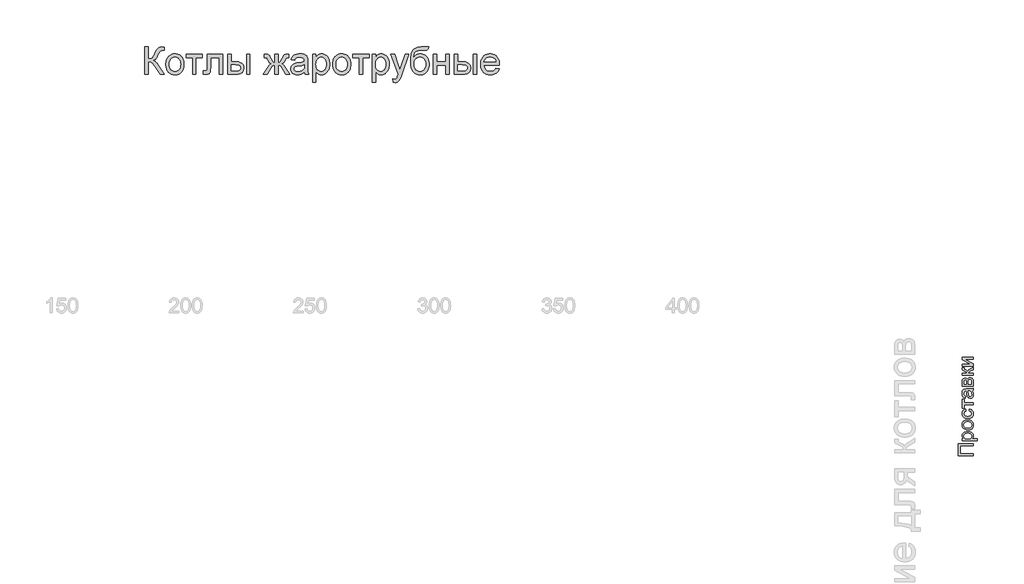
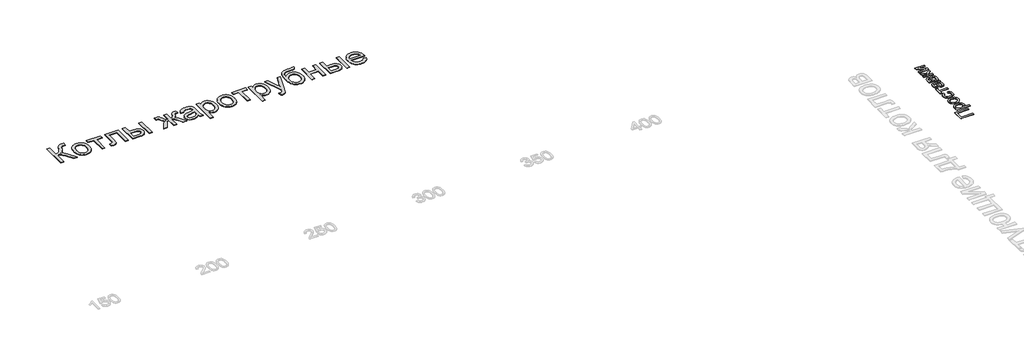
# One storey, part 8 of 8: 2 proxies.
"""IFC4 building model written with IfcOpenShell, lengths in millimetres."""

from ifc_helpers import new_model, si_unit, origin, origin_with_axes, place, context, project, spatial, polyline, outline, extrude, element, save

model = new_model("IFC4")

# Units and contexts
model_context = context("Model", 3, world=origin())
ifc_project = project(units=[si_unit("LENGTHUNIT", "METRE", prefix="MILLI")], contexts=[model_context])

# Site, building, storey
site = spatial("IfcSite", under=ifc_project)
building = spatial("IfcBuilding", under=site)
storey = spatial("IfcBuildingStorey", under=building, Name="Этаж 01", Elevation=0.0)

# Proxies
placement = place(None, origin())
element("IfcBuildingElementProxy", 1, Name="1100 мм Arial", ObjectType="1100 мм Arial", at=placement, inside=storey, context=model_context, shape_type="SweptSolid", body=[
    extrude(outline(polyline([(-8037.7373442, 7008.3016732), (-7899.7129979, 7008.3016732), (-7899.7129979, 6525.2164612), (-7848.9226669, 6527.4994566), (-7806.2702459, 6534.348443), (-7771.755735, 6545.7634204), (-7745.3791342, 6561.7443887), (-7721.9173541, 6586.9921283), (-7696.1473056, 6626.2074196), (-7668.0689885, 6679.3902625), (-7637.682403, 6746.5406571), (-7595.7292021, 6839.5790409), (-7561.5263916, 6900.8745208), (-7544.7619599, 6922.6851307), (-7524.79628, 6942.6929324), (-7501.6293517, 6960.8979258), (-7475.2611752, 6977.300111), (-7446.5763059, 6990.8632944), (-7416.4592992, 7000.5512826), (-7384.9101551, 7006.3640755), (-7351.9288736, 7008.3016732), (-7261.3503963, 7006.6842003), (-7261.3503963, 6868.6598541), (-7291.8128009, 6869.4685905), (-7322.2752055, 6870.2773269), (-7356.2084371, 6868.2049398), (-7385.4914344, 6861.9877787), (-7410.1241973, 6851.6258436), (-7430.106726, 6837.1191343), (-7448.6739659, 6815.7044683), (-7468.5217052, 6784.8882415), (-7512.0586816, 6695.051106), (-7539.9011172, 6632.7784029), (-7565.4689816, 6583.1759034), (-7588.7622749, 6546.2436077), (-7609.7809971, 6521.9815155), (-7653.4864602, 6489.7668488), (-7705.0771034, 6464.8308097), (-7678.3003465, 6455.5724627), (-7651.6162573, 6442.0850983), (-7625.0248359, 6424.3687164), (-7598.5260821, 6402.4233171), (-7545.8065778, 6345.8454662), (-7493.4577443, 6272.3515455), (-7261.3503963, 5904.1069029), (-7421.4802043, 5904.1069029), (-7617.7335717, 6215.2008396), (-7693.5189122, 6314.9786935), (-7726.382253, 6350.9421904), (-7755.8927074, 6377.6220674), (-7785.756984, 6396.9053761), (-7819.6817913, 6410.6791679), (-7857.6671293, 6418.9434431), (-7899.7129979, 6421.6982014), (-7899.7129979, 5904.1069029), (-8037.7373442, 5904.1069029), (-8037.7373442, 7008.3016732)])), origin_with_axes(), (0.0, 0.0, 1.0), 20.0),
    extrude(outline(polyline([(-7192.3382232, 6309.5534201), (-7190.4722324, 6363.8777607), (-7184.8742601, 6414.5712119), (-7175.5443063, 6461.6337736), (-7162.482371, 6505.0654458), (-7145.6884541, 6544.8662285), (-7125.1625556, 6581.0361217), (-7100.9046757, 6613.5751255), (-7072.9148142, 6642.4832397), (-7020.3132506, 6681.7575014), (-6962.2527163, 6709.8105454), (-6898.7332112, 6726.6423718), (-6829.7547354, 6732.2529806), (-6790.7690073, 6730.5449461), (-6753.6071484, 6725.4208428), (-6718.2691585, 6716.8806707), (-6684.7550376, 6704.9244296), (-6653.0647859, 6689.5521197), (-6623.1984032, 6670.7637409), (-6595.1558896, 6648.5592932), (-6568.9372451, 6622.9387766), (-6545.2122045, 6594.3065594), (-6524.6505026, 6563.0670097), (-6507.2521395, 6529.2201276), (-6493.0171152, 6492.7659129), (-6481.9454296, 6453.7043658), (-6474.0370827, 6412.0354863), (-6469.2920746, 6367.7592742), (-6467.7104052, 6320.8757297), (-6470.5072853, 6246.9942895), (-6478.8979255, 6181.4360947), (-6492.8823258, 6124.2011455), (-6512.4604862, 6075.2894417), (-6537.388101, 6033.0413889), (-6567.4208643, 5995.7973927), (-6602.5587762, 5963.5574529), (-6642.8018367, 5936.3215696), (-6686.5831189, 5914.6794465), (-6732.3356961, 5899.2207871), (-6780.0595682, 5889.9455915), (-6829.7547354, 5886.8538596), (-6869.3554401, 5888.5555758), (-6907.014335, 5893.6607243), (-6942.7314201, 5902.1693052), (-6976.5066954, 5914.0813185), (-7008.3401609, 5929.3967642), (-7038.2318166, 5948.1156422), (-7066.1816624, 5970.2379526), (-7092.1896985, 5995.7636953), (-7115.662009, 6024.4906863), (-7136.0046781, 6056.2167415), (-7153.2177057, 6090.9418609), (-7167.301092, 6128.6660444), (-7178.2548369, 6169.3892921), (-7186.0789404, 6213.1116039), (-7190.7734025, 6259.8329799), (-7192.3382232, 6309.5534201)]), holes=[polyline([(-7054.3138769, 6309.8229989), (-7050.3207409, 6242.8747884), (-7038.3413329, 6184.9069218), (-7018.375653, 6135.919399), (-6990.423701, 6095.91222), (-6956.4230747, 6064.8348388), (-6918.3113716, 6042.6367094), (-6876.0885919, 6029.3178317), (-6829.7547354, 6024.8782059), (-6783.6567604, 6029.3431048), (-6741.6024674, 6042.7378015), (-6703.5918564, 6065.0622959), (-6669.6249274, 6096.3165882), (-6641.6729754, 6136.7197111), (-6621.7072955, 6186.4906973), (-6609.7278875, 6245.6295468), (-6605.7347515, 6314.1362597), (-6609.7531605, 6378.9615371), (-6621.8083875, 6435.413023), (-6641.9004326, 6483.4907173), (-6670.0292956, 6523.1946201), (-6704.1225896, 6554.2720013), (-6742.1079276, 6576.4701308), (-6783.9853095, 6589.7890084), (-6829.7547354, 6594.2286343), (-6876.0885919, 6589.8058571), (-6918.3113716, 6576.5375255), (-6956.4230747, 6554.4236394), (-6990.423701, 6523.4641989), (-7018.375653, 6483.5749607), (-7038.3413329, 6434.6716813), (-7050.3207409, 6376.7543607), (-7054.3138769, 6309.8229989)])]), origin_with_axes(), (0.0, 0.0, 1.0), 20.0),
    extrude(outline(polyline([(-6381.4451888, 6714.9999373), (-5725.8295439, 6714.9999373), (-5725.8295439, 6576.975591), (-5984.6251932, 6576.975591), (-5984.6251932, 5904.1069029), (-6122.6495395, 5904.1069029), (-6122.6495395, 6576.975591), (-6381.4451888, 6576.975591), (-6381.4451888, 6714.9999373)])), origin_with_axes(), (0.0, 0.0, 1.0), 20.0),
    extrude(outline(polyline([(-5536.0460678, 6714.9999373), (-4914.9365095, 6714.9999373), (-4914.9365095, 5904.9156393), (-5052.9608558, 5904.9156393), (-5052.9608558, 6576.975591), (-5398.0217215, 6576.975591), (-5398.0217215, 6190.1300111), (-5400.3468386, 6077.8504403), (-5407.3221901, 6011.6688446), (-5414.0026898, 5990.7849118), (-5424.7437202, 5971.2657217), (-5439.5452812, 5953.1112743), (-5458.407373, 5936.3215696), (-5481.6248472, 5922.2276529), (-5509.4925558, 5912.1605696), (-5542.0104987, 5906.1203195), (-5579.178676, 5904.1069029), (-5691.3234573, 5911.1159517), (-5691.3234573, 6042.1312491), (-5629.5899118, 6042.1312491), (-5592.1521558, 6044.2541822), (-5567.1824193, 6050.6229814), (-5551.5805462, 6061.6083175), (-5542.2463802, 6077.5808615), (-5537.5961459, 6116.9056692), (-5536.0460678, 6197.9477963), (-5536.0460678, 6714.9999373)])), origin_with_axes(), (0.0, 0.0, 1.0), 20.0),
    extrude(outline(polyline([(-3948.7660855, 6714.9999373), (-3810.7417392, 6714.9999373), (-3810.7417392, 5904.1069029), (-3948.7660855, 5904.1069029), (-3948.7660855, 6714.9999373)])), origin_with_axes(), (0.0, 0.0, 1.0), 20.0),
    extrude(outline(polyline([(-4707.89999, 6714.9999373), (-4569.8756438, 6714.9999373), (-4569.8756438, 6421.6982014), (-4399.2322625, 6421.6982014), (-4320.7090123, 6417.3765163), (-4251.7389608, 6404.4114608), (-4192.3221081, 6382.803035), (-4142.4584542, 6352.5512389), (-4103.0072815, 6314.7006903), (-4087.5086065, 6293.3176156), (-4074.8278724, 6270.2960071), (-4064.9650793, 6245.6358651), (-4057.920227, 6219.3371893), (-4052.2843452, 6161.8242369), (-4057.0103985, 6110.511597), (-4071.1885586, 6063.0573036), (-4094.8188254, 6019.4613568), (-4127.901199, 5979.7237566), (-4148.218595, 5962.0010565), (-4171.3623563, 5946.6413831), (-4197.3324829, 5933.6447364), (-4226.1289747, 5923.0111163), (-4292.201054, 5908.8329562), (-4369.5785944, 5904.1069029), (-4707.89999, 5904.1069029), (-4707.89999, 6714.9999373)]), holes=[polyline([(-4569.8756438, 6042.1312491), (-4428.0771943, 6042.1312491), (-4368.5171278, 6043.9424817), (-4318.156438, 6049.3761794), (-4276.9951248, 6058.4323423), (-4245.0331881, 6071.1109703), (-4221.0912208, 6087.6310962), (-4203.9898156, 6108.2117528), (-4193.7289725, 6132.8529401), (-4190.3086915, 6161.5546581), (-4192.8444171, 6184.7552837), (-4200.4515939, 6206.6417127), (-4213.1302219, 6227.2139449), (-4230.8803011, 6246.4719806), (-4257.2905993, 6262.7478007), (-4295.9498842, 6274.3733865), (-4346.858156, 6281.348738), (-4410.0154146, 6283.6738551), (-4569.8756438, 6283.6738551), (-4569.8756438, 6042.1312491)])]), origin_with_axes(), (0.0, 0.0, 1.0), 20.0),
    extrude(outline(polyline([(-2672.0408823, 6714.9999373), (-2672.0408823, 6369.9390716), (-2645.5800381, 6371.7166068), (-2623.3482113, 6377.0492125), (-2605.345402, 6385.9368886), (-2591.5716101, 6398.3796351), (-2560.8733241, 6449.4985153), (-2515.4155987, 6545.9740289), (-2491.1366579, 6597.2782445), (-2467.902335, 6637.9677948), (-2445.7126299, 6668.0426798), (-2424.5675427, 6687.5028996), (-2401.2321277, 6699.5328536), (-2371.9322817, 6708.1256779), (-2336.6680048, 6713.2813724), (-2295.4392968, 6714.9999373), (-2240.7148002, 6714.9999373), (-2240.7148002, 6576.1668546), (-2278.7254112, 6576.975591), (-2324.2842286, 6573.4036719), (-2339.5828256, 6568.938773), (-2349.8942147, 6562.6879145), (-2370.3148089, 6532.7646676), (-2399.2271354, 6473.1877525), (-2429.0492903, 6413.2064692), (-2456.5126306, 6375.0610688), (-2490.1088888, 6348.9793198), (-2538.3297968, 6325.1889906), (-2515.5546003, 6317.3332958), (-2492.9226175, 6305.7624682), (-2448.0882931, 6271.4754144), (-2403.8268237, 6222.3278292), (-2360.1382092, 6158.3197125), (-2206.2087136, 5904.1069029), (-2364.45147, 5904.1069029), (-2515.9547563, 6154.8151881), (-2557.3687997, 6220.626113), (-2575.9781613, 6243.2454593), (-2593.1890829, 6259.0073948), (-2610.5010966, 6269.7989712), (-2629.4137344, 6277.5072401), (-2649.9269963, 6282.1322014), (-2672.0408823, 6283.6738551), (-2672.0408823, 5904.1069029), (-2810.0652286, 5904.1069029), (-2810.0652286, 6283.6738551), (-2831.9600819, 6282.1658987), (-2852.3554031, 6277.6420295), (-2871.2511922, 6270.1022474), (-2888.6474492, 6259.5465524), (-2905.9931602, 6243.986801), (-2924.7373112, 6221.4348494), (-2966.4209334, 6155.3543457), (-3117.9242197, 5904.1069029), (-3275.8973973, 5904.1069029), (-3122.5070594, 6158.3197125), (-3078.447774, 6222.3278292), (-3033.8830284, 6271.4754144), (-2988.8128226, 6305.7624682), (-2966.088172, 6317.3332958), (-2943.2371565, 6325.1889906), (-2995.9398121, 6351.6077131), (-3015.3157885, 6365.6258108), (-3030.0415305, 6380.183066), (-3061.0430926, 6430.3921178), (-3104.4452797, 6521.7119367), (-3122.0352965, 6552.1069466), (-3140.8384178, 6568.3490694), (-3165.7070623, 6575.4255129), (-3200.4153329, 6577.7843274), (-3241.3913107, 6576.975591), (-3241.3913107, 6714.9999373), (-3220.633743, 6714.9999373), (-3147.3757038, 6712.8433069), (-3099.5928612, 6706.3734157), (-3066.367274, 6692.8944756), (-3036.7810005, 6669.7106987), (-3021.9710151, 6651.4635836), (-3005.3076755, 6624.7584335), (-2966.4209334, 6545.9740289), (-2921.4349709, 6450.6779226), (-2891.0736584, 6399.3231609), (-2877.3672612, 6386.4676218), (-2859.2970572, 6377.2850939), (-2836.8630463, 6371.7755772), (-2810.0652286, 6369.9390716), (-2810.0652286, 6714.9999373), (-2672.0408823, 6714.9999373)])), origin_with_axes(), (0.0, 0.0, 1.0), 20.0),
    extrude(outline(polyline([(-1619.6052419, 6007.6251626), (-1652.3337932, 5976.9100279), (-1685.5509562, 5951.081009), (-1719.2567307, 5930.1381059), (-1753.4511167, 5914.0813185), (-1788.5216339, 5902.1693052), (-1824.8558017, 5893.6607243), (-1862.4536202, 5888.5555758), (-1901.3150893, 5886.8538596), (-1962.7706316, 5890.9480876), (-2016.6611189, 5903.2307718), (-2062.986551, 5923.701912), (-2101.7469281, 5952.3615083), (-2132.3525464, 5987.3899038), (-2154.2137023, 6026.9674416), (-2167.3303958, 6071.0941216), (-2171.702627, 6119.7699439), (-2170.0514569, 6149.0360926), (-2165.0979464, 6176.9880445), (-2156.8420956, 6203.6257998), (-2145.2839045, 6228.9493585), (-2114.7204079, 6273.4298607), (-2096.330079, 6292.030798), (-2075.8673631, 6308.2055261), (-2030.2074537, 6334.4894592), (-1979.2233629, 6353.4947647), (-1929.5534687, 6364.0757326), (-1859.7999539, 6374.2523324), (-1718.6754514, 6396.0882153), (-1664.1868361, 6408.4214455), (-1620.4139783, 6421.6982014), (-1619.6052419, 6452.4301848), (-1621.9809051, 6485.8916535), (-1629.1078946, 6514.0289409), (-1640.9862106, 6536.842047), (-1657.6158529, 6554.3309717), (-1686.3596926, 6571.7861991), (-1721.3712394, 6584.2542186), (-1762.6504933, 6591.7350304), (-1810.1974544, 6594.2286343), (-1854.4083778, 6592.5690398), (-1892.4189888, 6587.5902563), (-1924.2292874, 6579.2922838), (-1949.8392735, 6567.6751224), (-1970.8832687, 6551.8289434), (-1988.9955944, 6530.8439186), (-2004.1762507, 6504.7200479), (-2016.4252375, 6473.4573313), (-2154.4495837, 6490.7103746), (-2143.9444348, 6530.4732478), (-2130.4907678, 6566.192439), (-2114.0885826, 6597.8679481), (-2094.7378792, 6625.4997753), (-2071.6046484, 6649.6439266), (-2043.8548805, 6670.8564086), (-2011.4885757, 6689.137221), (-1974.5057338, 6704.486364), (-1933.6561211, 6716.6342588), (-1889.6895035, 6725.3113264), (-1842.605881, 6730.517567), (-1792.4052535, 6732.2529806), (-1743.3334874, 6730.7197511), (-1699.0972909, 6726.1200629), (-1659.6966642, 6718.4539157), (-1625.1316073, 6707.7213097), (-1595.1156926, 6694.6720108), (-1569.3624928, 6680.0557852), (-1547.8720077, 6663.8726328), (-1530.6442374, 6646.1225536), (-1516.6766858, 6626.367482), (-1504.9668566, 6604.1693526), (-1488.3203656, 6552.4439201), (-1483.2657631, 6504.7284722), (-1481.5808956, 6431.6726171), (-1481.5808956, 6259.9509206), (-1479.8286334, 6110.3683832), (-1474.5718468, 6020.1605768), (-1464.1930629, 5960.8869379), (-1447.074809, 5904.1069029), (-1585.0991553, 5904.1069029), (-1607.204617, 5952.0919295), (-1619.6052419, 6007.6251626)]), holes=[polyline([(-1619.6052419, 6283.6738551), (-1712.3403495, 6260.6922623), (-1842.2773318, 6241.3499833), (-1913.8842009, 6230.7690154), (-1961.0267938, 6218.9749428), (-1991.9272639, 6203.6763459), (-2014.8077646, 6182.5818046), (-2028.9606517, 6157.308792), (-2033.6782807, 6129.4747808), (-2031.1088578, 6108.0264174), (-2023.4005889, 6088.4314083), (-2010.5534742, 6070.6897534), (-1992.5675135, 6054.8014528), (-1969.6111937, 6041.7100323), (-1941.8530015, 6032.3590176), (-1909.2929369, 6026.7484088), (-1871.9309999, 6024.8782059), (-1833.7855995, 6026.9421686), (-1797.7968296, 6033.1340567), (-1763.96469, 6043.4538701), (-1732.2891808, 6057.901609), (-1703.7138279, 6075.2810174), (-1679.182157, 6094.3958393), (-1658.6941681, 6115.2460747), (-1642.2498612, 6137.8317236), (-1632.6966624, 6158.0501337), (-1625.872949, 6182.5818046), (-1620.4139783, 6244.584929), (-1619.6052419, 6283.6738551)])]), origin_with_axes(), (0.0, 0.0, 1.0), 20.0),
    extrude(outline(polyline([(-1291.7974194, 5593.5521237), (-1291.7974194, 6714.9999373), (-1153.7730732, 6714.9999373), (-1153.7730732, 6579.671379), (-1131.9371903, 6615.4326919), (-1108.7534133, 6646.4258297), (-1084.2217424, 6672.6507925), (-1058.3421775, 6694.1075802), (-1030.3733768, 6710.7961929), (-999.5739988, 6722.7166305), (-965.9440433, 6729.8688931), (-929.4835104, 6732.2529806), (-881.3468457, 6728.9169429), (-836.1418505, 6718.9088299), (-793.8685247, 6702.2286416), (-754.5268684, 6678.8763779), (-718.9761639, 6649.4585912), (-688.0756938, 6614.5818338), (-661.8254581, 6574.2461056), (-640.2254566, 6528.4514068), (-623.3599328, 6478.7646639), (-611.3131302, 6426.752804), (-604.0850486, 6372.4158268), (-601.675688, 6315.7537325), (-604.396749, 6255.1743212), (-612.5599321, 6197.7119149), (-626.1652372, 6143.3665134), (-645.2126644, 6092.1381168), (-669.4410592, 6045.3661948), (-698.5892671, 6004.390217), (-732.6572881, 5969.2101834), (-771.6451223, 5939.826094), (-813.6404449, 5916.6507415), (-856.7309314, 5900.0969182), (-900.9165818, 5890.1646242), (-946.1973961, 5886.8538596), (-978.7743094, 5889.0694603), (-1009.6495065, 5895.7162627), (-1038.8229874, 5906.7942665), (-1066.2947521, 5922.303472), (-1091.7278272, 5941.1992611), (-1114.785239, 5962.437016), (-1135.4669877, 5986.0167368), (-1153.7730732, 6011.9384234), (-1153.7730732, 5593.5521237), (-1291.7974194, 5593.5521237)]), holes=[polyline([(-1153.7730732, 6303.0835288), (-1150.0410916, 6236.5649596), (-1138.845147, 6179.346859), (-1120.1852394, 6131.4292271), (-1094.0613687, 6092.8120638), (-1062.6133166, 6063.091001), (-1027.980865, 6041.8616703), (-990.1640138, 6029.124072), (-949.1627629, 6024.8782059), (-907.5718085, 6029.2757101), (-869.0641616, 6042.4682226), (-833.6398222, 6064.4557436), (-801.2987904, 6095.238273), (-774.3493346, 6135.2538763), (-755.0997233, 6184.9406192), (-743.5499566, 6244.2985015), (-739.7000343, 6313.3275233), (-743.4572888, 6379.2732376), (-754.7290525, 6436.3902461), (-773.5153252, 6484.6785489), (-799.816107, 6524.1381459), (-831.3399781, 6554.8027346), (-865.7955186, 6576.7060122), (-903.1827286, 6589.8479788), (-943.5016081, 6594.2286343), (-983.6941225, 6589.5699756), (-1021.5109738, 6575.5939997), (-1056.9521618, 6552.3007063), (-1090.0176866, 6519.6900957), (-1117.9106682, 6478.2002333), (-1137.8342265, 6428.2691847), (-1149.7883615, 6369.8969499), (-1153.7730732, 6303.0835288)])]), origin_with_axes(), (0.0, 0.0, 1.0), 20.0),
    extrude(outline(polyline([(-480.904385, 6309.5534201), (-479.0383942, 6363.8777607), (-473.440422, 6414.5712119), (-464.1104681, 6461.6337736), (-451.0485328, 6505.0654458), (-434.2546159, 6544.8662285), (-413.7287175, 6581.0361217), (-389.4708375, 6613.5751255), (-361.480976, 6642.4832397), (-308.8794124, 6681.7575014), (-250.8188781, 6709.8105454), (-187.299373, 6726.6423718), (-118.3208972, 6732.2529806), (-79.3351691, 6730.5449461), (-42.1733102, 6725.4208428), (-6.8353203, 6716.8806707), (26.6788006, 6704.9244296), (58.3690523, 6689.5521197), (88.235435, 6670.7637409), (116.2779486, 6648.5592932), (142.4965931, 6622.9387766), (166.2216337, 6594.3065594), (186.7833355, 6563.0670097), (204.1816987, 6529.2201276), (218.416723, 6492.7659129), (229.4884086, 6453.7043658), (237.3967555, 6412.0354863), (242.1417636, 6367.7592742), (243.723433, 6320.8757297), (240.9265529, 6246.9942895), (232.5359127, 6181.4360947), (218.5515124, 6124.2011455), (198.973352, 6075.2894417), (174.0457372, 6033.0413889), (144.0129738, 5995.7973927), (108.875062, 5963.5574529), (68.6320015, 5936.3215696), (24.8507193, 5914.6794465), (-20.9018579, 5899.2207871), (-68.62573, 5889.9455915), (-118.3208972, 5886.8538596), (-157.9216019, 5888.5555758), (-195.5804968, 5893.6607243), (-231.2975819, 5902.1693052), (-265.0728572, 5914.0813185), (-296.9063227, 5929.3967642), (-326.7979784, 5948.1156422), (-354.7478242, 5970.2379526), (-380.7558603, 5995.7636953), (-404.2281708, 6024.4906863), (-424.5708399, 6056.2167415), (-441.7838676, 6090.9418609), (-455.8672538, 6128.6660444), (-466.8209987, 6169.3892921), (-474.6451022, 6213.1116039), (-479.3395643, 6259.8329799), (-480.904385, 6309.5534201)]), holes=[polyline([(-342.8800387, 6309.8229989), (-338.8869027, 6242.8747884), (-326.9074947, 6184.9069218), (-306.9418148, 6135.919399), (-278.9898628, 6095.91222), (-244.9892365, 6064.8348388), (-206.8775334, 6042.6367094), (-164.6547537, 6029.3178317), (-118.3208972, 6024.8782059), (-72.2229222, 6029.3431048), (-30.1686292, 6042.7378015), (7.8419818, 6065.0622959), (41.8089108, 6096.3165882), (69.7608628, 6136.7197111), (89.7265427, 6186.4906973), (101.7059507, 6245.6295468), (105.6990867, 6314.1362597), (101.6806777, 6378.9615371), (89.6254507, 6435.413023), (69.5334056, 6483.4907173), (41.4045426, 6523.1946201), (7.3112486, 6554.2720013), (-30.6740894, 6576.4701308), (-72.5514713, 6589.7890084), (-118.3208972, 6594.2286343), (-164.6547537, 6589.8058571), (-206.8775334, 6576.5375255), (-244.9892365, 6554.4236394), (-278.9898628, 6523.4641989), (-306.9418148, 6483.5749607), (-326.9074947, 6434.6716813), (-338.8869027, 6376.7543607), (-342.8800387, 6309.8229989)])]), origin_with_axes(), (0.0, 0.0, 1.0), 20.0),
    extrude(outline(polyline([(329.9886494, 6714.9999373), (985.6042943, 6714.9999373), (985.6042943, 6576.975591), (726.808645, 6576.975591), (726.808645, 5904.1069029), (588.7842987, 5904.1069029), (588.7842987, 6576.975591), (329.9886494, 6576.975591), (329.9886494, 6714.9999373)])), origin_with_axes(), (0.0, 0.0, 1.0), 20.0),
    extrude(outline(polyline([(1106.3755973, 5593.5521237), (1106.3755973, 6714.9999373), (1244.3999436, 6714.9999373), (1244.3999436, 6579.671379), (1266.2358265, 6615.4326919), (1289.4196034, 6646.4258297), (1313.9512743, 6672.6507925), (1339.8308392, 6694.1075802), (1367.7996399, 6710.7961929), (1398.5990179, 6722.7166305), (1432.2289734, 6729.8688931), (1468.6895063, 6732.2529806), (1516.826171, 6728.9169429), (1562.0311663, 6718.9088299), (1604.304492, 6702.2286416), (1643.6461484, 6678.8763779), (1679.1968528, 6649.4585912), (1710.0973229, 6614.5818338), (1736.3475587, 6574.2461056), (1757.9475601, 6528.4514068), (1774.8130839, 6478.7646639), (1786.8598866, 6426.752804), (1794.0879682, 6372.4158268), (1796.4973287, 6315.7537325), (1793.7762677, 6255.1743212), (1785.6130846, 6197.7119149), (1772.0077795, 6143.3665134), (1752.9603523, 6092.1381168), (1728.7319575, 6045.3661948), (1699.5837496, 6004.390217), (1665.5157286, 5969.2101834), (1626.5278945, 5939.826094), (1584.5325718, 5916.6507415), (1541.4420853, 5900.0969182), (1497.2564349, 5890.1646242), (1451.9756206, 5886.8538596), (1419.3987073, 5889.0694603), (1388.5235102, 5895.7162627), (1359.3500293, 5906.7942665), (1331.8782646, 5922.303472), (1306.4451896, 5941.1992611), (1283.3877777, 5962.437016), (1262.706029, 5986.0167368), (1244.3999436, 6011.9384234), (1244.3999436, 5593.5521237), (1106.3755973, 5593.5521237)]), holes=[polyline([(1244.3999436, 6303.0835288), (1248.1319251, 6236.5649596), (1259.3278697, 6179.346859), (1277.9877774, 6131.4292271), (1304.1116481, 6092.8120638), (1335.5597001, 6063.091001), (1370.1921517, 6041.8616703), (1408.009003, 6029.124072), (1449.0102538, 6024.8782059), (1490.6012082, 6029.2757101), (1529.1088551, 6042.4682226), (1564.5331945, 6064.4557436), (1596.8742263, 6095.238273), (1623.8236821, 6135.2538763), (1643.0732934, 6184.9406192), (1654.6230602, 6244.2985015), (1658.4729824, 6313.3275233), (1654.7157279, 6379.2732376), (1643.4439643, 6436.3902461), (1624.6576915, 6484.6785489), (1598.3569097, 6524.1381459), (1566.8330387, 6554.8027346), (1532.3774981, 6576.7060122), (1494.9902881, 6589.8479788), (1454.6714086, 6594.2286343), (1414.4788942, 6589.5699756), (1376.662043, 6575.5939997), (1341.2208549, 6552.3007063), (1308.1553301, 6519.6900957), (1280.2623485, 6478.2002333), (1260.3387902, 6428.2691847), (1248.3846552, 6369.8969499), (1244.3999436, 6303.0835288)])]), origin_with_axes(), (0.0, 0.0, 1.0), 20.0),
    extrude(outline(polyline([(1951.7747183, 5593.5521237), (1934.521675, 5726.4544728), (1972.1279178, 5717.3561882), (2004.6121634, 5714.3234267), (2041.4770644, 5718.1312273), (2070.1198121, 5729.554629), (2092.4274579, 5747.7848954), (2110.2870535, 5772.0132902), (2125.5182558, 5807.6650867), (2148.0280857, 5873.6444983), (2158.8112377, 5907.0722697), (1865.5095019, 6714.9999373), (2011.0820546, 6714.9999373), (2166.629023, 6264.8033391), (2195.2717706, 6176.9206498), (2220.814362, 6084.7246998), (2274.9997011, 6243.7761926), (2434.8599303, 6714.9999373), (2579.3541678, 6714.9999373), (2297.1051628, 5884.6972292), (2255.1856592, 5774.30471), (2223.7797288, 5704.6185899), (2205.6337058, 5673.6675737), (2186.2408808, 5647.1309105), (2165.6012538, 5625.0086001), (2143.7148248, 5607.3006426), (2120.1098311, 5593.7374591), (2094.3145095, 5584.049471), (2066.3288602, 5578.2366781), (2036.1528831, 5576.2990804), (1996.1878258, 5580.6123413), (1951.7747183, 5593.5521237)])), origin_with_axes(), (0.0, 0.0, 1.0), 20.0),
    extrude(outline(polyline([(3263.006008, 7025.5547164), (3383.777311, 7025.5547164), (3378.4194323, 6989.8102523), (3370.7027392, 6959.9459757), (3360.6272315, 6935.9618867), (3348.1929092, 6917.8579853), (3333.5851079, 6904.0504961), (3316.989163, 6892.9556435), (3298.4050744, 6884.5734277), (3277.8328421, 6878.9038485), (3214.0100609, 6872.4339573), (3108.8069336, 6870.2773269), (3032.0022483, 6868.2891832), (2968.4574702, 6862.3247522), (2918.1725994, 6852.3840339), (2881.1476359, 6838.4670283), (2852.8924078, 6820.1693672), (2828.9167432, 6797.0866823), (2809.220642, 6769.2189737), (2793.8041043, 6736.5662414), (2782.0016074, 6699.0105446), (2773.1476286, 6656.4339427), (2767.242168, 6608.8364356), (2764.2852255, 6556.2180233), (2790.9651025, 6597.5309746), (2819.7847613, 6633.3175605), (2850.7442017, 6663.5777809), (2883.8434239, 6688.311636), (2919.0992765, 6707.5359742), (2956.5286082, 6721.2676444), (2996.131419, 6729.5066465), (3037.9077089, 6732.2529806), (3076.3521733, 6730.5070366), (3113.1033458, 6725.2692048), (3148.1612265, 6716.539485), (3181.5258153, 6704.3178773), (3213.1971123, 6688.6043817), (3243.1751174, 6669.3989982), (3271.4598307, 6646.7017268), (3298.0512522, 6620.5125674), (3322.1869792, 6591.3454048), (3343.1046094, 6559.7141234), (3360.8041425, 6525.6187233), (3375.2855788, 6489.0592044), (3386.5489181, 6450.0355668), (3394.5941604, 6408.5478105), (3399.4213058, 6364.5959355), (3401.0303543, 6318.1799417), (3397.8375304, 6249.0498279), (3388.2590586, 6186.4233026), (3372.2949389, 6130.3003659), (3349.9451714, 6080.6810177), (3323.2147484, 6036.9502816), (3294.1086622, 5998.4931807), (3262.6269128, 5965.3097151), (3228.7695002, 5937.3998848), (3190.5567052, 5915.2859988), (3146.0088082, 5899.4903659), (3095.1258095, 5890.0129862), (3037.9077089, 5886.8538596), (2971.7176888, 5890.9228146), (2913.3286053, 5903.1296797), (2862.7404584, 5923.4744549), (2819.953248, 5951.9571401), (2783.3326527, 5986.7833515), (2751.244351, 6026.1587052), (2723.6883429, 6070.0832011), (2700.6646284, 6118.5568393), (2682.5017567, 6178.7150337), (2669.5282769, 6257.6931982), (2661.744189, 6355.4913327), (2659.149493, 6472.1094373), (2660.7859206, 6548.0021881), (2665.6952033, 6617.4376842), (2673.8773411, 6680.4159256), (2685.3323341, 6736.9369123), (2700.0601822, 6787.0006442), (2718.0608854, 6830.6071214), (2739.3344438, 6867.7563439), (2763.8808573, 6898.4483116), (2791.8222789, 6924.1951932), (2823.2808613, 6946.5091573), (2858.2566047, 6965.3902038), (2896.749509, 6980.8383328), (2938.7595743, 6992.8535442), (2984.2868004, 7001.4358381), (3033.3311875, 7006.5852144), (3085.8927355, 7008.3016732), (3239.5526523, 7011.4018294), (3254.5816705, 7016.4901292), (3263.006008, 7025.5547164)]), holes=[polyline([(3263.006008, 6322.4932025), (3259.2656021, 6379.5006947), (3248.0443845, 6431.0997621), (3229.3423552, 6477.2904049), (3203.1595141, 6518.0726229), (3170.1698083, 6551.3908779), (3131.0471848, 6575.1896315), (3085.7916435, 6589.4688836), (3034.4031845, 6594.2286343), (2980.7738517, 6589.1993048), (2933.6481075, 6574.1113162), (2893.0259518, 6548.9646687), (2858.9073848, 6513.7593621), (2831.8989586, 6470.1465666), (2812.6072257, 6419.7774525), (2801.0321859, 6362.6520196), (2797.1738393, 6298.770268), (2801.4365541, 6236.2195618), (2814.2246985, 6181.4697921), (2835.5382725, 6134.520959), (2865.377276, 6095.3730624), (2901.4671381, 6064.5315627), (2941.5332874, 6042.50192), (2985.5757241, 6029.2841344), (3033.5944481, 6024.8782059), (3082.2702704, 6029.9749301), (3126.1273716, 6045.2651027), (3165.1657518, 6070.7487238), (3199.3854109, 6106.4257933), (3227.2194221, 6150.5103516), (3247.1008587, 6201.2164393), (3259.0297207, 6258.5440563), (3263.006008, 6322.4932025)])]), origin_with_axes(), (0.0, 0.0, 1.0), 20.0),
    extrude(outline(polyline([(3573.5607872, 6714.9999373), (3711.5851334, 6714.9999373), (3711.5851334, 6404.4451582), (4073.8990424, 6404.4451582), (4073.8990424, 6714.9999373), (4211.9233887, 6714.9999373), (4211.9233887, 5904.1069029), (4073.8990424, 5904.1069029), (4073.8990424, 6266.4208119), (3711.5851334, 6266.4208119), (3711.5851334, 5904.1069029), (3573.5607872, 5904.1069029), (3573.5607872, 6714.9999373)])), origin_with_axes(), (0.0, 0.0, 1.0), 20.0),
    extrude(outline(polyline([(5178.0938127, 6714.9999373), (5316.118159, 6714.9999373), (5316.118159, 5904.1069029), (5178.0938127, 5904.1069029), (5178.0938127, 6714.9999373)])), origin_with_axes(), (0.0, 0.0, 1.0), 20.0),
    extrude(outline(polyline([(4418.9599082, 6714.9999373), (4556.9842545, 6714.9999373), (4556.9842545, 6421.6982014), (4727.6276357, 6421.6982014), (4806.1508859, 6417.3765163), (4875.1209374, 6404.4114608), (4934.5377901, 6382.803035), (4984.401444, 6352.5512389), (5023.8526167, 6314.7006903), (5039.3512917, 6293.3176156), (5052.0320258, 6270.2960071), (5061.8948189, 6245.6358651), (5068.9396712, 6219.3371893), (5074.575553, 6161.8242369), (5069.8494997, 6110.511597), (5055.6713396, 6063.0573036), (5032.0410728, 6019.4613568), (4998.9586993, 5979.7237566), (4978.6413032, 5962.0010565), (4955.4975419, 5946.6413831), (4929.5274153, 5933.6447364), (4900.7309235, 5923.0111163), (4834.6588442, 5908.8329562), (4757.2813038, 5904.1069029), (4418.9599082, 5904.1069029), (4418.9599082, 6714.9999373)]), holes=[polyline([(4556.9842545, 6042.1312491), (4698.782704, 6042.1312491), (4758.3427704, 6043.9424817), (4808.7034602, 6049.3761794), (4849.8647734, 6058.4323423), (4881.8267101, 6071.1109703), (4905.7686774, 6087.6310962), (4922.8700826, 6108.2117528), (4933.1309257, 6132.8529401), (4936.5512067, 6161.5546581), (4934.0154811, 6184.7552837), (4926.4083043, 6206.6417127), (4913.7296763, 6227.2139449), (4895.9795971, 6246.4719806), (4869.5692989, 6262.7478007), (4830.910014, 6274.3733865), (4780.0017422, 6281.348738), (4716.8444836, 6283.6738551), (4556.9842545, 6283.6738551), (4556.9842545, 6042.1312491)])]), origin_with_axes(), (0.0, 0.0, 1.0), 20.0),
    extrude(outline(polyline([(6090.8876341, 6145.6495089), (6226.2161924, 6128.3964656), (6205.467049, 6074.1942778), (6177.4561267, 6026.428284), (6142.1834254, 5985.098484), (6099.6489451, 5950.2048779), (6050.2907515, 5922.4888074), (5994.54691, 5902.6916142), (5932.4174206, 5890.8132982), (5863.9022834, 5886.8538596), (5819.9146049, 5888.561894), (5778.2604679, 5893.6859973), (5738.9398724, 5902.2261695), (5701.9528184, 5914.1824106), (5667.299306, 5929.5547205), (5634.979335, 5948.3430993), (5604.9929055, 5970.547547), (5577.3400175, 5996.1680635), (5552.5092826, 6024.8718876), (5530.9893124, 6056.3262579), (5512.7801068, 6090.5311744), (5497.8816658, 6127.4866371), (5486.2939895, 6167.192646), (5478.0170779, 6209.6492012), (5473.0509309, 6254.8563025), (5471.3955486, 6302.81395), (5473.0677796, 6352.403813), (5478.0844726, 6399.1378255), (5486.4456276, 6443.0159876), (5498.1512446, 6484.0382992), (5513.2013237, 6522.2047605), (5531.5958647, 6557.5153713), (5553.3348677, 6589.9701317), (5578.4183327, 6619.5690416), (5606.1681006, 6645.9793398), (5635.9060121, 6668.8682649), (5667.6320673, 6688.2358169), (5701.3462661, 6704.0819958), (5737.0486086, 6716.4068017), (5774.7390948, 6725.2102344), (5814.4177246, 6730.492294), (5856.0844981, 6732.2529806), (5896.388635, 6730.4965062), (5934.8099324, 6725.2270831), (5971.3483904, 6716.4447112), (6006.004009, 6704.1493905), (6038.7767881, 6688.3411211), (6069.6667278, 6669.019903), (6098.6738281, 6646.1857361), (6125.7980889, 6619.8386204), (6150.3445024, 6590.3071052), (6171.6180607, 6557.9197395), (6189.618764, 6522.6765234), (6204.3466121, 6484.5774568), (6215.8016051, 6443.6225399), (6223.9837429, 6399.8117725), (6228.8930256, 6353.1451547), (6230.5294532, 6303.6226864), (6229.7207168, 6266.4208119), (5609.4198949, 6266.4208119), (5617.4145912, 6211.342493), (5633.3113162, 6163.1047362), (5657.1100697, 6121.7075416), (5688.8108519, 6087.150909), (5726.6614005, 6059.9066014), (5768.9094532, 6040.4463816), (5815.5550102, 6028.7702498), (5866.5980714, 6024.8782059), (5904.7771691, 6026.6810141), (5940.0582947, 6032.0894388), (5972.4414482, 6041.10348), (6001.9266296, 6053.7231376), (6028.5138389, 6070.2853852), (6052.2030761, 6091.1271963), (6072.9943411, 6116.2485708), (6090.8876341, 6145.6495089)]), holes=[polyline([(5609.4198949, 6404.4451582), (6092.5051069, 6404.4451582), (6085.4118147, 6443.500387), (6073.8367749, 6477.3662239), (6057.7799875, 6506.0426689), (6037.2414526, 6529.529722), (5999.6015125, 6557.8354961), (5956.7721804, 6578.0539062), (5908.7534564, 6590.1849523), (5855.5453405, 6594.2286343), (5807.0127319, 6591.002113), (5762.5069567, 6581.3225492), (5722.0280148, 6565.1899428), (5685.5759063, 6542.6042938), (5654.9871367, 6514.6102202), (5632.0982116, 6482.2523397), (5616.909131, 6445.5306523), (5609.4198949, 6404.4451582)])]), origin_with_axes(), (0.0, 0.0, 1.0), 20.0),
])
element("IfcBuildingElementProxy", 2, Name="600 мм Arial", ObjectType="600 мм Arial", at=placement, inside=storey, context=model_context, shape_type="SweptSolid", body=[
    extrude(outline(polyline([(24700.5255854, -9439.7865523), (24700.5255854, -8968.8975985), (25303.2634463, -8968.8975985), (25303.2634463, -9044.2398311), (24775.867818, -9044.2398311), (24775.867818, -9364.4443197), (25303.2634463, -9364.4443197), (25303.2634463, -9439.7865523), (24700.5255854, -9439.7865523)])), origin_with_axes(), (0.0, 0.0, 1.0), 20.0),
    extrude(outline(polyline([(25472.7834696, -8846.4664705), (24860.6278297, -8846.4664705), (24860.6278297, -8771.1242379), (24934.4985343, -8771.1242379), (24898.0598227, -8746.5497206), (24872.0321715, -8719.0321474), (24856.4155808, -8686.9528374), (24851.2100506, -8648.6931099), (24853.0310665, -8622.4171384), (24858.4941141, -8597.7414536), (24867.5991935, -8574.6660554), (24880.3463046, -8553.190944), (24896.4043537, -8533.7851687), (24915.442247, -8516.9177792), (24937.4599844, -8502.5887755), (24962.4575659, -8490.7981576), (25017.970959, -8475.01602), (25078.5611236, -8469.7553075), (25142.9956551, -8475.6966017), (25172.6607395, -8483.1232195), (25200.6243696, -8493.5204843), (25226.1553801, -8506.7458421), (25248.5226054, -8522.6567384), (25267.7260455, -8541.2531732), (25283.7657005, -8562.5351466), (25296.4162426, -8585.4587935), (25305.4523441, -8608.9802485), (25310.874005, -8633.0995118), (25312.6812253, -8657.8165834), (25307.8435771, -8692.4526732), (25293.3306324, -8723.3731549), (25271.4232596, -8749.8422645), (25244.402327, -8771.1242379), (25472.7834696, -8771.1242379), (25472.7834696, -8846.4664705)]), holes=[polyline([(25085.4773051, -8771.1242379), (25121.787258, -8769.0870914), (25153.0204394, -8762.9756517), (25179.1768493, -8752.789919), (25200.2564876, -8738.5298931), (25216.4800836, -8721.3635995), (25228.0683665, -8702.4590635), (25235.0213362, -8681.816285), (25237.3389927, -8659.4352642), (25234.9385627, -8636.7323465), (25227.7372727, -8615.712489), (25215.7351226, -8596.3756917), (25198.9321124, -8578.7219544), (25177.089119, -8564.0112731), (25149.9670189, -8553.5036437), (25117.5658122, -8547.199066), (25079.8854988, -8545.0975401), (25043.8882456, -8547.1484822), (25012.7102465, -8553.3013086), (24986.3515015, -8563.5560192), (24964.8120107, -8577.912614), (24948.0733799, -8595.1202944), (24936.1172151, -8613.9282614), (24928.9435162, -8634.336515), (24926.5522832, -8656.3450554), (24929.0952675, -8678.2846179), (24936.7242204, -8698.9273963), (24949.4391418, -8718.2733908), (24967.2400319, -8736.3226012), (24989.8877672, -8751.5483172), (25017.1432245, -8762.4238287), (25049.0064038, -8768.9491356), (25085.4773051, -8771.1242379)])]), origin_with_axes(), (0.0, 0.0, 1.0), 20.0),
    extrude(outline(polyline([(25081.945638, -8403.8308539), (25024.6204261, -8399.7565608), (24975.2230712, -8387.5336815), (24933.7535733, -8367.162216), (24900.2119324, -8338.6421644), (24878.7736091, -8309.9289746), (24863.460521, -8278.2359408), (24854.2726682, -8243.5630627), (24851.2100506, -8205.9103405), (24854.9394543, -8164.3442736), (24866.1276655, -8126.7605292), (24884.7746841, -8093.1591075), (24910.8805102, -8063.5400084), (24943.562227, -8039.3655628), (24981.9369176, -8022.0981016), (25026.0045821, -8011.7376249), (25075.7652205, -8008.2841327), (25116.0942842, -8009.810843), (25151.8800053, -8014.3909738), (25183.1223837, -8022.0245252), (25209.8214195, -8032.7114972), (25232.8830221, -8046.3185325), (25253.2131008, -8062.7122739), (25270.8116558, -8081.8927214), (25285.6786869, -8103.8598751), (25297.4922975, -8127.7584092), (25305.9305907, -8152.7329981), (25310.9935667, -8178.7836419), (25312.6812253, -8205.9103405), (25308.9656172, -8248.0834127), (25297.8187927, -8286.016645), (25279.240752, -8319.7100372), (25253.2314949, -8349.1635894), (25220.23248, -8373.0805176), (25180.6851655, -8390.1640378), (25134.5895515, -8400.4141499), (25081.945638, -8403.8308539)]), holes=[polyline([(25081.7984852, -8328.4886213), (25118.3429629, -8326.3089205), (25149.985413, -8319.769818), (25176.7258355, -8308.8713139), (25198.5642304, -8293.6134082), (25215.5281889, -8275.0537615), (25227.6453022, -8254.2500347), (25234.9155701, -8231.2022277), (25237.3389927, -8205.9103405), (25234.9017745, -8180.747212), (25227.5901199, -8157.7913755), (25215.4040288, -8137.042831), (25198.3435012, -8118.5015785), (25176.2889756, -8103.2436727), (25149.1208903, -8092.3451686), (25116.8392452, -8085.8060661), (25079.4440404, -8083.6263653), (25044.058391, -8085.8198617), (25013.2436754, -8092.4003509), (24986.9998935, -8103.3678329), (24965.3270455, -8118.7223077), (24948.363087, -8137.3325381), (24936.2459738, -8158.067287), (24928.9757059, -8180.9265545), (24926.5522832, -8205.9103405), (24928.9665088, -8231.2022277), (24936.2091856, -8254.2500347), (24948.2803135, -8275.0537615), (24965.1798927, -8293.6134082), (24986.9539083, -8308.8713139), (25013.6483456, -8319.769818), (25045.2632045, -8326.3089205), (25081.7984852, -8328.4886213)])]), origin_with_axes(), (0.0, 0.0, 1.0), 20.0),
    extrude(outline(polyline([(25143.161202, -7640.9907487), (25152.578981, -7565.6485161), (25188.1301774, -7573.8430875), (25219.5886865, -7586.654578), (25246.9545084, -7604.0829876), (25270.2276431, -7626.1283161), (25288.8010853, -7651.8616617), (25302.0678298, -7680.3541222), (25310.0278765, -7711.6056977), (25312.6812253, -7745.6163881), (25308.9794128, -7787.8722338), (25297.873975, -7825.7594808), (25279.3649122, -7859.2781291), (25253.4522241, -7888.4281787), (25220.6233546, -7912.0232101), (25181.3657472, -7928.876804), (25135.6794019, -7938.9889604), (25083.5643188, -7942.3596792), (25016.5178251, -7936.6023259), (24986.346903, -7929.4056344), (24958.410864, -7919.3302663), (24933.2707281, -7906.3072436), (24911.4875155, -7890.2675887), (24893.0612261, -7871.2113013), (24877.9918598, -7849.1383816), (24866.2748183, -7825.0467094), (24857.9055029, -7799.9341647), (24852.8839137, -7773.8007475), (24851.2100506, -7746.6464577), (24853.5093131, -7713.2197799), (24860.4071005, -7682.9844785), (24871.9034128, -7655.9405533), (24887.9982501, -7632.0880044), (24908.3237303, -7611.8315021), (24932.5119715, -7595.5757164), (24960.5629737, -7583.3206474), (24992.4767367, -7575.0662952), (25001.8945158, -7650.4085278), (24969.0242596, -7664.0753439), (24945.4614178, -7685.3573173), (24931.2795668, -7713.0772257), (24926.5522832, -7746.0578465), (24928.8791368, -7771.6578349), (24935.8596977, -7794.7470286), (24947.4939658, -7815.3254277), (24963.7819411, -7833.3930322), (24985.1007027, -7848.1037135), (25011.8273297, -7858.611343), (25043.961822, -7864.9159207), (25081.5041796, -7867.0174466), (25119.6121558, -7864.9619059), (25152.1191286, -7858.795284), (25179.025098, -7848.5175807), (25200.330064, -7834.1287962), (25216.5214703, -7816.4198766), (25228.0867606, -7796.1817684), (25235.0259347, -7773.4144714), (25237.3389927, -7748.1179857), (25231.5632454, -7709.1041001), (25224.3435613, -7692.2321121), (25214.2360034, -7677.1167606), (25201.1302074, -7664.18111), (25184.9158084, -7653.8482245), (25165.5928066, -7646.118104), (25143.161202, -7640.9907487)])), origin_with_axes(), (0.0, 0.0, 1.0), 20.0),
    extrude(outline(polyline([(24860.6278297, -7537.3951789), (24860.6278297, -7179.519574), (24935.9700623, -7179.519574), (24935.9700623, -7320.7862601), (25303.2634463, -7320.7862601), (25303.2634463, -7396.1284927), (24935.9700623, -7396.1284927), (24935.9700623, -7537.3951789), (24860.6278297, -7537.3951789)])), origin_with_axes(), (0.0, 0.0, 1.0), 20.0),
    extrude(outline(polyline([(25246.7567718, -6831.0617481), (25277.6220712, -6867.0590014), (25297.8187927, -6904.1231124), (25308.9656172, -6943.1002098), (25312.6812253, -6984.8364221), (25310.4463422, -7018.3826616), (25303.7416929, -7047.7994256), (25292.5672773, -7073.0867142), (25276.9230954, -7094.2445275), (25257.8024287, -7110.9509686), (25236.1985585, -7122.8841408), (25212.1114849, -7130.0440441), (25185.5412078, -7132.4306786), (25154.3080264, -7128.825435), (25125.9443246, -7118.0097044), (25101.6641129, -7101.3262559), (25082.681402, -7080.1178589), (25068.3340041, -7055.1938537), (25057.9597319, -7027.3635808), (25046.6289664, -6962.1748912), (25034.7095898, -6885.1404014), (25020.730074, -6831.5032065), (25003.954655, -6831.0617481), (24970.3302406, -6836.2488843), (24957.8774351, -6842.7328044), (24948.3308973, -6851.8102927), (24938.8027536, -6867.5004598), (24931.9969367, -6886.6119294), (24926.5522832, -6935.0987764), (24930.1759209, -6979.9803798), (24941.0468338, -7011.3239258), (24961.1515849, -7032.6978697), (24992.4767367, -7047.6706669), (24983.0589577, -7123.0128995), (24941.8561742, -7109.9346946), (24909.4825586, -7090.4185547), (24884.7241004, -7062.6434641), (24866.3667888, -7024.7884068), (24854.9992351, -6978.4904577), (24851.2100506, -6925.3866917), (24854.5577768, -6874.4534295), (24864.6009552, -6834.0783805), (24879.7025111, -6803.6361454), (24898.2253696, -6782.5013248), (24921.1260238, -6768.4850208), (24949.3609669, -6759.3983355), (25015.2854204, -6755.7195155), (25109.0217528, -6755.7195155), (25239.9141667, -6751.8935428), (25272.2693882, -6746.22816), (25303.2634463, -6736.8839574), (25303.2634463, -6812.22619), (25277.0702482, -6824.2927194), (25246.7567718, -6831.0617481)]), holes=[polyline([(25096.0723066, -6831.0617481), (25108.6170826, -6881.6823107), (25119.1752959, -6952.6099593), (25131.3889781, -7017.4307669), (25139.7398994, -7034.2981564), (25151.2546059, -7046.7877501), (25165.0501807, -7054.513272), (25180.2437071, -7057.088446), (25202.6477206, -7051.4782455), (25221.0050321, -7034.6476443), (25233.2555026, -7006.9645241), (25237.3389927, -6968.7967671), (25232.8324383, -6928.3297477), (25219.312775, -6892.5716177), (25199.3919649, -6863.5825165), (25175.6819703, -6843.4225832), (25151.2546059, -6834.4830507), (25117.4094623, -6831.5032065), (25096.0723066, -6831.0617481)])]), origin_with_axes(), (0.0, 0.0, 1.0), 20.0),
    extrude(outline(polyline([(24860.6278297, -6652.1239457), (24860.6278297, -6486.1355895), (24863.1478213, -6432.7743061), (24870.7077963, -6395.1215839), (24884.9816178, -6367.4200696), (24907.6431487, -6343.9124101), (24937.1656788, -6327.854361), (24972.0224978, -6322.501678), (25000.1102881, -6325.7390396), (25024.3353175, -6335.4511242), (25044.8079506, -6351.6747202), (25061.6385518, -6374.4466157), (25077.2919307, -6346.5611605), (25102.4734533, -6323.8260532), (25135.1965568, -6308.7061032), (25173.4746784, -6303.6661199), (25204.3123866, -6307.8507775), (25230.9010578, -6316.4316251), (25253.240692, -6329.4086625), (25271.3312891, -6346.7818897), (25285.3016079, -6368.5788979), (25295.280407, -6394.8272783), (25301.2676864, -6425.5270308), (25303.2634463, -6460.6781554), (25303.2634463, -6652.1239457), (24860.6278297, -6652.1239457)]), holes=[polyline([(25030.1478531, -6576.7817131), (25030.1478531, -6502.3223972), (25026.3218803, -6440.8861041), (25020.5829212, -6425.0671783), (25011.0179893, -6411.014086), (24998.3628487, -6401.1364545), (24983.3532633, -6397.8439106), (24971.1119899, -6399.2878474), (24960.8756734, -6403.6196579), (24952.6443137, -6410.8393421), (24946.4179109, -6420.9468999), (24938.5820245, -6452.2536577), (24935.9700623, -6499.9679525), (24935.9700623, -6576.7817131), (25030.1478531, -6576.7817131)]), polyline([(25227.9212137, -6576.7817131), (25227.9212137, -6484.3697559), (25224.5183052, -6434.0067107), (25214.3095798, -6402.4056474), (25206.2667597, -6392.6107892), (25195.7499332, -6385.4462874), (25167.2942609, -6379.0083525), (25148.4403086, -6382.2273199), (25131.0210961, -6391.8842223), (25117.3910682, -6406.7098667), (25109.9046696, -6425.4350603), (25105.4900857, -6491.7273958), (25105.4900857, -6576.7817131), (25227.9212137, -6576.7817131)])]), origin_with_axes(), (0.0, 0.0, 1.0), 20.0),
    extrude(outline(polyline([(24860.6278297, -6209.4883291), (24860.6278297, -6134.1460965), (25048.9834112, -6134.1460965), (25045.5988968, -6103.5015263), (25035.4453538, -6083.6726867), (25008.9578501, -6066.1247156), (24956.571454, -6042.3227505), (24913.7315957, -6023.1377044), (24888.5132849, -6007.9625721), (24874.7728924, -5993.7991153), (24866.3667888, -5977.6490957), (24862.0625695, -5955.3002645), (24860.6278297, -5922.5403728), (24860.6278297, -5908.1193986), (24936.4115207, -5908.1193986), (24935.9700623, -5928.4264848), (24937.9566251, -5951.9709325), (24943.9163134, -5965.2146843), (24960.5077914, -5975.9568385), (24993.5068063, -5991.1135767), (25026.5610036, -6007.024473), (25047.1440012, -6021.5006296), (25060.8843937, -6039.0302066), (25073.4107757, -6064.1013646), (25084.0149742, -6040.2258231), (25102.7309707, -6016.5710108), (25129.5587652, -5993.1369277), (25164.4983577, -5969.9235738), (25303.2634463, -5889.2838405), (25303.2634463, -5974.926769), (25167.4414137, -6053.9478215), (25131.2970076, -6075.2849772), (25109.978246, -6093.679077), (25099.5487914, -6112.2571178), (25096.0723066, -6134.1460965), (25303.2634463, -6134.1460965), (25303.2634463, -6209.4883291), (24860.6278297, -6209.4883291)])), origin_with_axes(), (0.0, 0.0, 1.0), 20.0),
    extrude(outline(polyline([(24860.6278297, -5842.1949451), (24860.6278297, -5766.8527125), (25198.1963484, -5766.8527125), (24860.6278297, -5581.7344925), (24860.6278297, -5484.3193402), (25303.2634463, -5484.3193402), (25303.2634463, -5559.6615728), (24967.7550667, -5559.6615728), (25303.2634463, -5743.6025704), (25303.2634463, -5842.1949451), (24860.6278297, -5842.1949451)])), origin_with_axes(), (0.0, 0.0, 1.0), 20.0),
])

save(model, "model.ifc")
